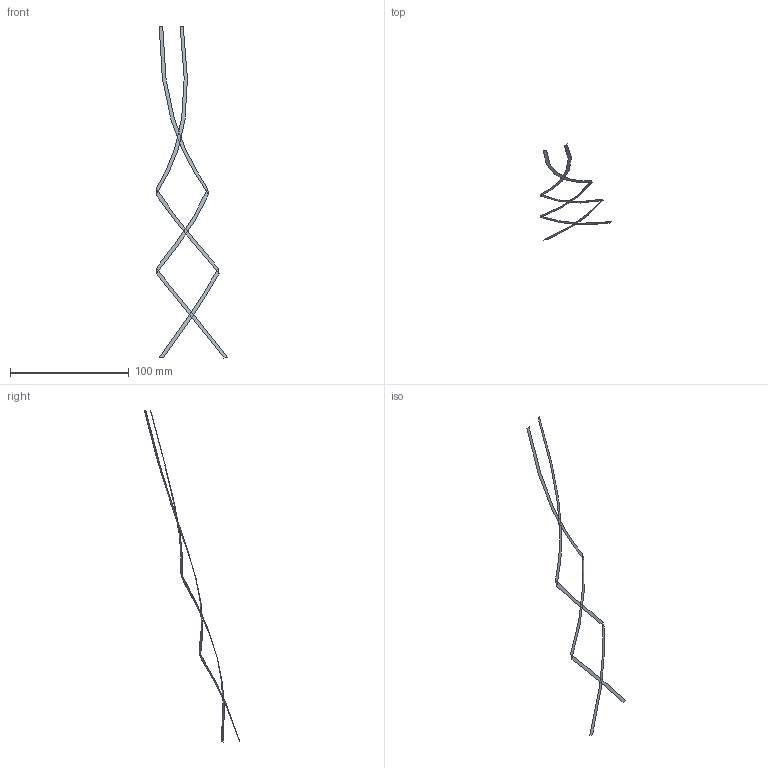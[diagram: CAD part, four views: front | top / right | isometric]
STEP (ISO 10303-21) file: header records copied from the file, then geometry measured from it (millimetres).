
FILE_DESCRIPTION(('CATIA V5 STEP Exchange'),'2;1');
FILE_NAME('C:\Users\diego\Dropbox\Academic\MEng Space Systems\3. MUE - Materiales uso Espacial\Coursework\Modelo FEM\CATIA\.stp\Heli_Stiffeners.stp','2021-11-24T16:33:21+00:00',('none'),('none'),'CATIA Version 5 Release 21 GA (IN-10)','CATIA V5 STEP AP203','none');
FILE_SCHEMA(('CONFIG_CONTROL_DESIGN'));
Length unit declared in the file: millimetre
Products named in the file (1): Part1
Bounding box: 60.32 x 80.47 x 279.9 mm (x, y, z)
Surface area: 1985 mm2 (no closed solid volume)
Topology: 0 solids, 6 shells, 6 faces, 32 edges, 32 vertices
Faces by surface type: bspline 6
Entity records: 930 total; most frequent: CARTESIAN_POINT 719, ORIENTED_EDGE 32, B_SPLINE_CURVE_WITH_KNOTS 32, EDGE_CURVE 32, VERTEX_POINT 32, OPEN_SHELL 6, SHELL_BASED_SURFACE_MODEL 6, ADVANCED_FACE 6
